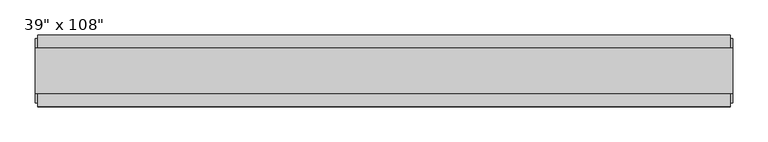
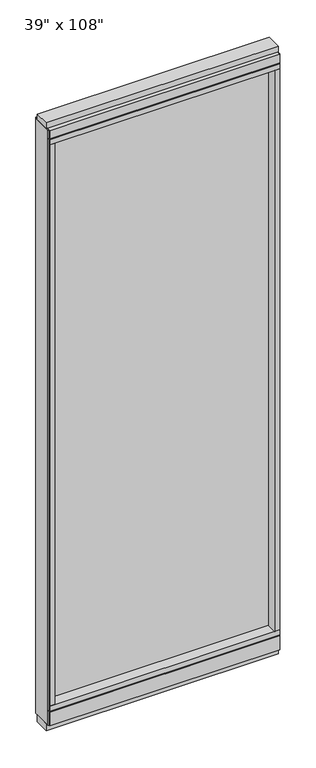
"""IFC4 building model written with IfcOpenShell, lengths in millimetres: furniture geometry."""

from ifc_helpers import new_model, si_unit, frame, origin, origin_with_axes, place, context, project, spatial, polyline, outline, extrude, source, transform, mapped, element, save


def furniture_a4c772e7(model_context):
    return source(origin(), model_context, "Body", "SweptSolid", [
        extrude(outline(polyline([(409.1014771, 9.5977216), (409.1014771, -0.5622784), (-529.1745229, -0.5622784), (-529.1745229, 9.5977216), (409.1014771, 9.5977216)])), frame((0.0, 0.0, 120.523), z_axis=(0.0, 0.0, 1.0), x_axis=(1.0, 0.0, 0.0)), (0.0, 0.0, 1.0), 2533.777),
        extrude(outline(polyline([(55.3177216, 93.345), (55.3177216, 31.75), (-46.2822784, 31.75), (-46.2822784, 93.345), (-41.3292784, 93.345), (-41.3292784, 98.298), (50.3647216, 98.298), (50.3647216, 93.345), (55.3177216, 93.345)])), frame((-551.3995229, 0.0, 0.0), z_axis=(1.0, 0.0, 0.0), x_axis=(0.0, 1.0, 0.0)), (0.0, 0.0, 1.0), 982.726),
        extrude(outline(polyline([(-551.3995229, 55.3177216), (431.3264771, 55.3177216), (431.3264771, -46.2822784), (-551.3995229, -46.2822784), (-551.3995229, 55.3177216)])), frame((0.0, 0.0, 98.298), z_axis=(0.0, 0.0, 1.0), x_axis=(1.0, 0.0, 0.0)), (0.0, 0.0, 1.0), 22.225),
        extrude(outline(polyline([(435.2634771, -27.9942784), (-555.3365229, -27.9942784), (-555.3365229, 37.0297216), (435.2634771, 37.0297216), (435.2634771, -27.9942784)])), origin_with_axes(), (0.0, 0.0, 1.0), 31.75),
        extrude(outline(polyline([(-555.3365229, 37.0297216), (435.2634771, 37.0297216), (435.2634771, -27.9942784), (-555.3365229, -27.9942784), (-555.3365229, 37.0297216)])), frame((0.0, 0.0, 2717.8), z_axis=(0.0, 0.0, 1.0), x_axis=(1.0, 0.0, 0.0)), (0.0, 0.0, 1.0), 25.4),
        extrude(outline(polyline([(55.3177216, 2681.478), (50.3647216, 2681.478), (50.3647216, 2676.525), (-41.3292784, 2676.525), (-41.3292784, 2681.478), (-46.2822784, 2681.478), (-46.2822784, 2717.8), (55.3177216, 2717.8), (55.3177216, 2681.478)])), frame((-551.3995229, 0.0, 0.0), z_axis=(1.0, 0.0, 0.0), x_axis=(0.0, 1.0, 0.0)), (0.0, 0.0, 1.0), 982.726),
        extrude(outline(polyline([(431.3264771, -46.2822784), (-551.3995229, -46.2822784), (-551.3995229, 55.3177216), (431.3264771, 55.3177216), (431.3264771, -46.2822784)])), frame((0.0, 0.0, 2654.3), z_axis=(0.0, 0.0, 1.0), x_axis=(1.0, 0.0, 0.0)), (0.0, 0.0, 1.0), 22.225),
        extrude(outline(polyline([(409.1014771, 55.3177216), (431.3264771, 55.3177216), (431.3264771, -46.2822784), (409.1014771, -46.2822784), (409.1014771, 55.3177216)])), frame((0.0, 0.0, 120.523), z_axis=(0.0, 0.0, 1.0), x_axis=(1.0, 0.0, 0.0)), (0.0, 0.0, 1.0), 2533.777),
        extrude(outline(polyline([(-529.1745229, 55.3177216), (-529.1745229, -46.2822784), (-551.3995229, -46.2822784), (-551.3995229, 55.3177216), (-529.1745229, 55.3177216)])), frame((0.0, 0.0, 120.523), z_axis=(0.0, 0.0, 1.0), x_axis=(1.0, 0.0, 0.0)), (0.0, 0.0, 1.0), 2533.777),
        extrude(outline(polyline([(435.2634771, 50.3647216), (435.2634771, -41.3292784), (431.3264771, -41.3292784), (431.3264771, 50.3647216), (435.2634771, 50.3647216)])), frame((0.0, 0.0, 31.75), z_axis=(0.0, 0.0, 1.0), x_axis=(1.0, 0.0, 0.0)), (0.0, 0.0, 1.0), 2686.05),
        extrude(outline(polyline([(-555.3365229, 50.3647216), (-551.3995229, 50.3647216), (-551.3995229, -41.3292784), (-555.3365229, -41.3292784), (-555.3365229, 50.3647216)])), frame((0.0, 0.0, 31.75), z_axis=(0.0, 0.0, 1.0), x_axis=(1.0, 0.0, 0.0)), (0.0, 0.0, 1.0), 2686.05),
    ])


if __name__ == "__main__":
    model = new_model("IFC4")
    model_context = context("Model", 3, world=origin())
    ifc_project = project(units=[si_unit("LENGTHUNIT", "METRE", prefix="MILLI")], contexts=[model_context])
    site = spatial("IfcSite", under=ifc_project)
    building = spatial("IfcBuilding", under=site)
    placement = place(None, origin())
    furniture_shape = furniture_a4c772e7(model_context)
    element("IfcFurniture", 1, ObjectType="Haworth_Enclose-Wall-Glass : 39\" x 108\"", at=placement, inside=building, context=model_context, shape_type="MappedRepresentation", body=[
        mapped(furniture_shape, transform((0.0, 0.0, 0.0), x_axis=(1.0, 0.0, 0.0), y_axis=(0.0, 1.0, 0.0), z_axis=(0.0, 0.0, 1.0))),
    ])
    save(model, "model.ifc")
